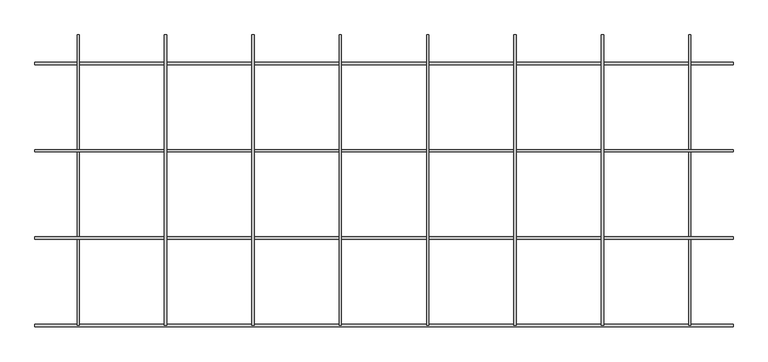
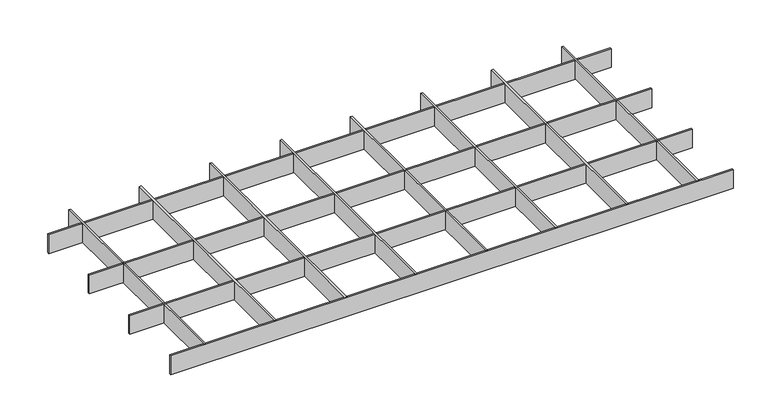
"""IFC4 building model written with IfcOpenShell, lengths in millimetres: proxy geometry, durlum_GEO_panel : durlum_GEO_4_width_cut."""

from ifc_helpers import new_model, si_unit, origin, origin_with_axes, place, context, project, spatial, polyline, outline, extrude, source, transform, mapped, element, save


def generic_models_cd8084ed(model_context):
    return source(origin(), model_context, "Body", "SweptSolid", [
        extrude(outline(polyline([(373.0, 249.5), (377.0, 249.5), (377.0, -249.5), (373.0, -249.5), (373.0, 249.5)])), origin_with_axes(), (0.0, 0.0, 1.0), 42.0),
        extrude(outline(polyline([(223.0, 249.5), (227.0, 249.5), (227.0, -249.5), (223.0, -249.5), (223.0, 249.5)])), origin_with_axes(), (0.0, 0.0, 1.0), 42.0),
        extrude(outline(polyline([(73.0, 249.5), (77.0, 249.5), (77.0, -249.5), (73.0, -249.5), (73.0, 249.5)])), origin_with_axes(), (0.0, 0.0, 1.0), 42.0),
        extrude(outline(polyline([(-77.0, 249.5), (-73.0, 249.5), (-73.0, -249.5), (-77.0, -249.5), (-77.0, 249.5)])), origin_with_axes(), (0.0, 0.0, 1.0), 42.0),
        extrude(outline(polyline([(-227.0, 249.5), (-223.0, 249.5), (-223.0, -249.5), (-227.0, -249.5), (-227.0, 249.5)])), origin_with_axes(), (0.0, 0.0, 1.0), 42.0),
        extrude(outline(polyline([(-377.0, 249.5), (-373.0, 249.5), (-373.0, -249.5), (-377.0, -249.5), (-377.0, 249.5)])), origin_with_axes(), (0.0, 0.0, 1.0), 42.0),
        extrude(outline(polyline([(599.5, -97.5), (599.5, -101.5), (-599.5, -101.5), (-599.5, -97.5), (599.5, -97.5)])), origin_with_axes(), (0.0, 0.0, 1.0), 42.0),
        extrude(outline(polyline([(599.5, 52.5), (599.5, 48.5), (-599.5, 48.5), (-599.5, 52.5), (599.5, 52.5)])), origin_with_axes(), (0.0, 0.0, 1.0), 42.0),
        extrude(outline(polyline([(523.0, 249.5), (527.0, 249.5), (527.0, -249.5), (523.0, -249.5), (523.0, 249.5)])), origin_with_axes(), (0.0, 0.0, 1.0), 42.0),
        extrude(outline(polyline([(-527.0, 249.5), (-523.0, 249.5), (-523.0, -249.5), (-527.0, -249.5), (-527.0, 249.5)])), origin_with_axes(), (0.0, 0.0, 1.0), 42.0),
        extrude(outline(polyline([(599.5, -247.5), (599.5, -251.5), (-599.5, -251.5), (-599.5, -247.5), (599.5, -247.5)])), origin_with_axes(), (0.0, 0.0, 1.0), 42.0),
        extrude(outline(polyline([(599.5, 202.5), (599.5, 198.5), (-599.5, 198.5), (-599.5, 202.5), (599.5, 202.5)])), origin_with_axes(), (0.0, 0.0, 1.0), 42.0),
    ])


if __name__ == "__main__":
    model = new_model("IFC4")
    model_context = context("Model", 3, world=origin())
    ifc_project = project(units=[si_unit("LENGTHUNIT", "METRE", prefix="MILLI")], contexts=[model_context])
    site = spatial("IfcSite", under=ifc_project)
    building = spatial("IfcBuilding", under=site)
    placement = place(None, origin())
    generic_models_shape = generic_models_cd8084ed(model_context)
    element("IfcBuildingElementProxy", 1, Name="durlum_GEO_panel : durlum_GEO_4_width_cut", ObjectType="durlum_GEO_panel : durlum_GEO_4_width_cut", at=placement, inside=building, context=model_context, shape_type="MappedRepresentation", body=[
        mapped(generic_models_shape, transform((0.0, 0.0, 0.0), x_axis=(1.0, 0.0, 0.0), y_axis=(0.0, 1.0, 0.0), z_axis=(0.0, 0.0, 1.0))),
    ])
    save(model, "model.ifc")
